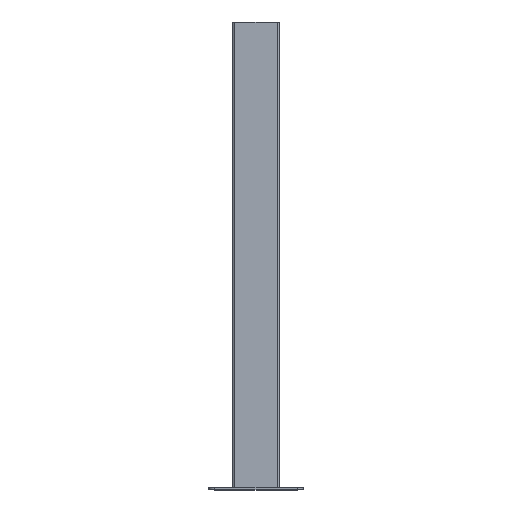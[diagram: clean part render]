
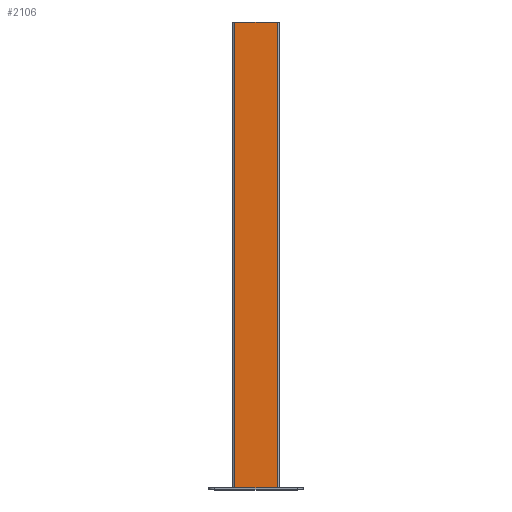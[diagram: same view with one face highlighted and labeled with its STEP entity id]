
A CAD part, top view. The second image highlights one B-rep face of the part: STEP entity #2106.
In plain terms, the highlighted planar face has unit normal (0, 0, 1).
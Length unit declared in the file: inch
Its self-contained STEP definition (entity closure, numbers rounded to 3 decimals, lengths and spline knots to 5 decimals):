
#17 = LINE ( 'NONE', #2751, #1895 ) ;
#36 = EDGE_CURVE ( 'NONE', #572, #1553, #1843, .T. ) ;
#38 = VECTOR ( 'NONE', #1650, 39.37008 ) ;
#94 = LINE ( 'NONE', #2818, #1304 ) ;
#364 = VERTEX_POINT ( 'NONE', #1992 ) ;
#572 = VERTEX_POINT ( 'NONE', #1312 ) ;
#611 = ORIENTED_EDGE ( 'NONE', *, *, #1764, .T. ) ;
#793 = CARTESIAN_POINT ( 'NONE',  ( 1.81, 39.788, 2. ) ) ;
#891 = ORIENTED_EDGE ( 'NONE', *, *, #1732, .T. ) ;
#894 = ORIENTED_EDGE ( 'NONE', *, *, #1851, .F. ) ;
#1251 = AXIS2_PLACEMENT_3D ( 'NONE', #1783, #1724, #1717 ) ;
#1304 = VECTOR ( 'NONE', #2785, 39.37008 ) ;
#1312 = CARTESIAN_POINT ( 'NONE',  ( -1.81, 39.788, 2. ) ) ;
#1429 = ORIENTED_EDGE ( 'NONE', *, *, #36, .F. ) ;
#1500 = EDGE_LOOP ( 'NONE', ( #611, #894, #1429, #891 ) ) ;
#1553 = VERTEX_POINT ( 'NONE', #793 ) ;
#1607 = LINE ( 'NONE', #2522, #2131 ) ;
#1650 = DIRECTION ( 'NONE',  ( 1., 0., 0. ) ) ;
#1656 = CARTESIAN_POINT ( 'NONE',  ( -1.81, 39.788, 2. ) ) ;
#1717 = DIRECTION ( 'NONE',  ( -1., 0., 0. ) ) ;
#1724 = DIRECTION ( 'NONE',  ( 0., 0., -1. ) ) ;
#1732 = EDGE_CURVE ( 'NONE', #572, #364, #94, .T. ) ;
#1742 = PLANE ( 'NONE',  #1251 ) ;
#1764 = EDGE_CURVE ( 'NONE', #364, #1828, #17, .T. ) ;
#1783 = CARTESIAN_POINT ( 'NONE',  ( -1.81, 39.788, 2. ) ) ;
#1828 = VERTEX_POINT ( 'NONE', #2654 ) ;
#1843 = LINE ( 'NONE', #1656, #38 ) ;
#1851 = EDGE_CURVE ( 'NONE', #1553, #1828, #1607, .T. ) ;
#1895 = VECTOR ( 'NONE', #2736, 39.37008 ) ;
#1992 = CARTESIAN_POINT ( 'NONE',  ( -1.81, 0.188, 2. ) ) ;
#2106 = ADVANCED_FACE ( 'NONE', ( #2942 ), #1742, .F. ) ;
#2131 = VECTOR ( 'NONE', #2539, 39.37008 ) ;
#2522 = CARTESIAN_POINT ( 'NONE',  ( 1.81, 39.788, 2. ) ) ;
#2539 = DIRECTION ( 'NONE',  ( 0., -1., 0. ) ) ;
#2654 = CARTESIAN_POINT ( 'NONE',  ( 1.81, 0.188, 2. ) ) ;
#2736 = DIRECTION ( 'NONE',  ( 1., 0., 0. ) ) ;
#2751 = CARTESIAN_POINT ( 'NONE',  ( -1.81, 0.188, 2. ) ) ;
#2785 = DIRECTION ( 'NONE',  ( 0., -1., 0. ) ) ;
#2818 = CARTESIAN_POINT ( 'NONE',  ( -1.81, 39.788, 2. ) ) ;
#2942 = FACE_OUTER_BOUND ( 'NONE', #1500, .T. ) ;
